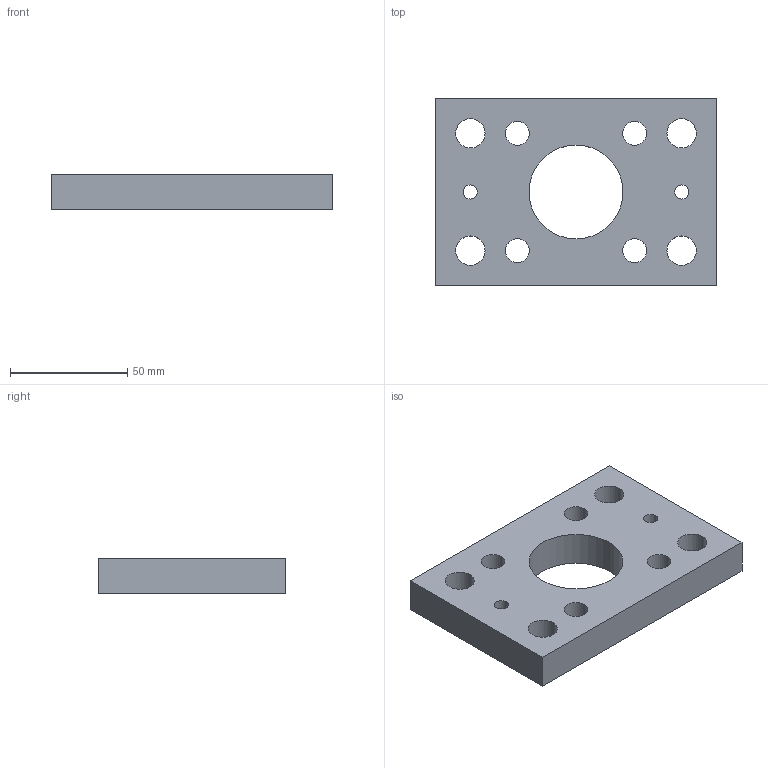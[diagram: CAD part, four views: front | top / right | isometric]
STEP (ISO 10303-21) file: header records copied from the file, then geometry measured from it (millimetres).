
FILE_DESCRIPTION (( 'STEP AP203' ), '1' );
FILE_NAME ('3DPS56.STEP', '2002-11-20T10:11:28', ( 'Francesc' ), ( 'propia' ), 'SwSTEP 2.0', 'SolidWorks 2001039', '' );
FILE_SCHEMA (( 'CONFIG_CONTROL_DESIGN' ));
Length unit declared in the file: millimetre
Products named in the file (1): 2
Bounding box: 120 x 80 x 15 mm (x, y, z)
Volume: 112036.3 mm3; surface area: 27667.5 mm2
Topology: 1 solids, 1 shells, 28 faces, 78 edges, 52 vertices
Faces by surface type: cylinder 22, plane 6
Entity records: 1047 total; most frequent: DIRECTION 180, CARTESIAN_POINT 159, ORIENTED_EDGE 156, EDGE_CURVE 78, AXIS2_PLACEMENT_3D 73, VERTEX_POINT 52, EDGE_LOOP 50, CIRCLE 44
